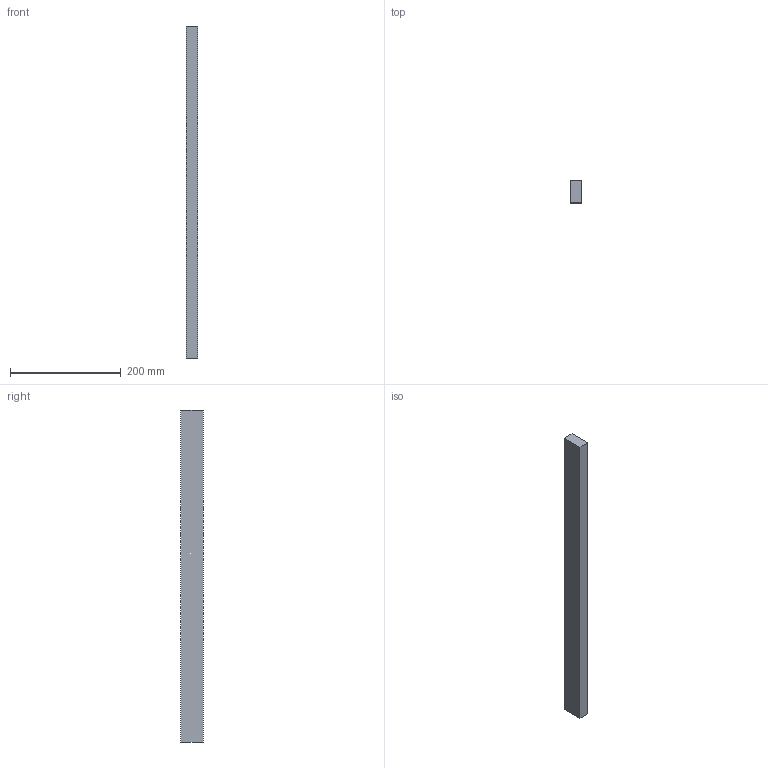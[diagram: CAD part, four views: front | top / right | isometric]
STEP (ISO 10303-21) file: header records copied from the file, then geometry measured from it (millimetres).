
FILE_DESCRIPTION(('Open CASCADE Model'),'2;1');
FILE_NAME('Open CASCADE Shape Model','2026-11-14T16:01:15',('Author'),( 'Open CASCADE'),'Open CASCADE STEP processor 7.9','Open CASCADE 7.9' ,'Unknown');
FILE_SCHEMA(('AUTOMOTIVE_DESIGN { 1 0 10303 214 1 1 1 1 }'));
Length unit declared in the file: millimetre
Products named in the file (1): Open CASCADE STEP translator 7.9 38
Bounding box: 20 x 40 x 600 mm (x, y, z)
Volume: 480000 mm3; surface area: 73600 mm2
Topology: 1 solids, 1 shells, 6 faces, 12 edges, 8 vertices
Faces by surface type: plane 6
Entity records: 322 total; most frequent: CARTESIAN_POINT 51, DIRECTION 50, LINE 36, VECTOR 36, ORIENTED_EDGE 24, PCURVE 24, DEFINITIONAL_REPRESENTATION 24, EDGE_CURVE 12
